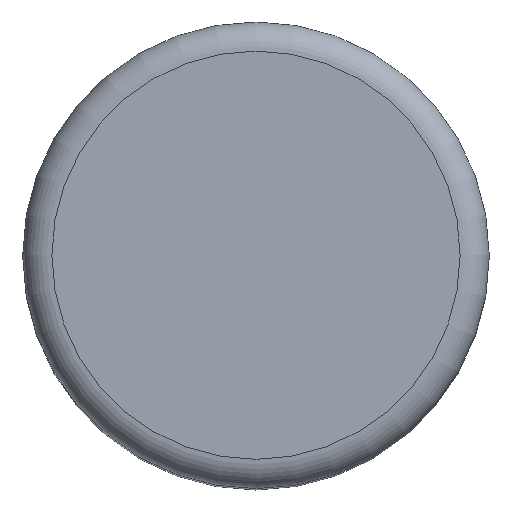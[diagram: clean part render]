
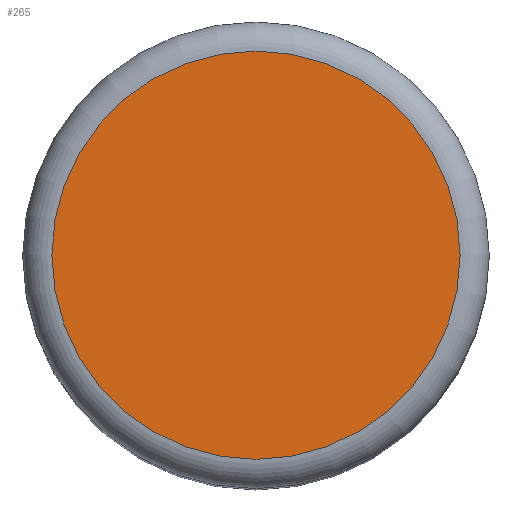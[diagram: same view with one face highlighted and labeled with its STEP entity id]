
A CAD part, top view. The second image highlights one B-rep face of the part: STEP entity #265.
In plain terms, the highlighted planar face has unit normal (0, 0, 1).
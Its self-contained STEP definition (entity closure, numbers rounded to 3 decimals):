
#84 = TOROIDAL_SURFACE('',#85,7.,1.);
#85 = AXIS2_PLACEMENT_3D('',#86,#87,#88);
#86 = CARTESIAN_POINT('',(0.,0.,29.));
#87 = DIRECTION('',(0.,0.,1.));
#88 = DIRECTION('',(1.,0.,-0.));
#181 = VERTEX_POINT('',#182);
#182 = CARTESIAN_POINT('',(7.,0.,30.));
#204 = EDGE_CURVE('',#181,#181,#205,.T.);
#205 = SURFACE_CURVE('',#206,(#211,#218),.PCURVE_S1.);
#206 = CIRCLE('',#207,7.);
#207 = AXIS2_PLACEMENT_3D('',#208,#209,#210);
#208 = CARTESIAN_POINT('',(0.,0.,30.));
#209 = DIRECTION('',(0.,0.,1.));
#210 = DIRECTION('',(1.,0.,-0.));
#211 = PCURVE('',#84,#212);
#212 = DEFINITIONAL_REPRESENTATION('',(#213),#217);
#213 = LINE('',#214,#215);
#214 = CARTESIAN_POINT('',(0.,1.571));
#215 = VECTOR('',#216,1.);
#216 = DIRECTION('',(1.,0.));
#217 = ( GEOMETRIC_REPRESENTATION_CONTEXT(2) 
PARAMETRIC_REPRESENTATION_CONTEXT() REPRESENTATION_CONTEXT('2D SPACE',''
  ) );
#218 = PCURVE('',#219,#224);
#219 = PLANE('',#220);
#220 = AXIS2_PLACEMENT_3D('',#221,#222,#223);
#221 = CARTESIAN_POINT('',(0.,0.,30.));
#222 = DIRECTION('',(0.,0.,1.));
#223 = DIRECTION('',(1.,0.,-0.));
#224 = DEFINITIONAL_REPRESENTATION('',(#225),#229);
#225 = CIRCLE('',#226,7.);
#226 = AXIS2_PLACEMENT_2D('',#227,#228);
#227 = CARTESIAN_POINT('',(0.,0.));
#228 = DIRECTION('',(1.,0.));
#229 = ( GEOMETRIC_REPRESENTATION_CONTEXT(2) 
PARAMETRIC_REPRESENTATION_CONTEXT() REPRESENTATION_CONTEXT('2D SPACE',''
  ) );
#265 = ADVANCED_FACE('',(#266),#219,.T.);
#266 = FACE_BOUND('',#267,.T.);
#267 = EDGE_LOOP('',(#268));
#268 = ORIENTED_EDGE('',*,*,#204,.T.);
